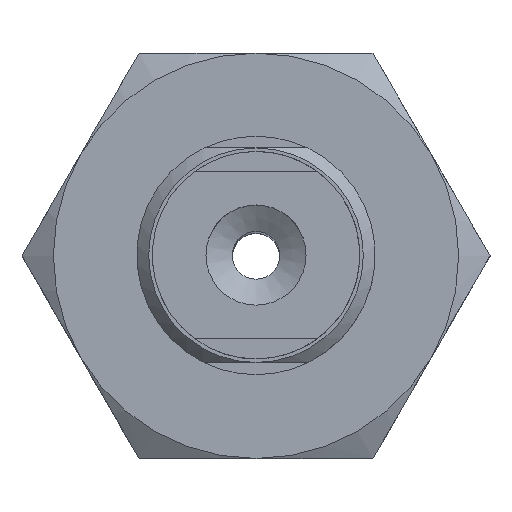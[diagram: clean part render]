
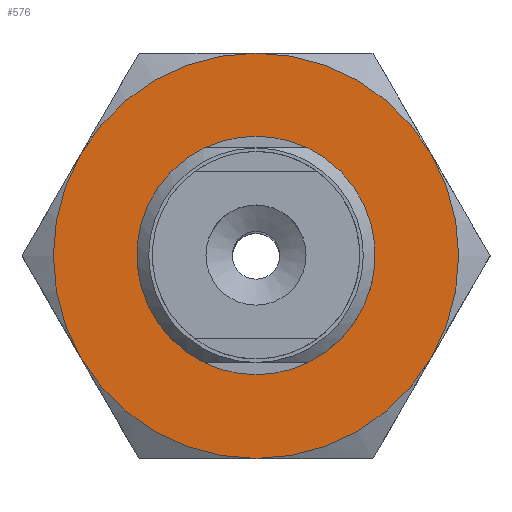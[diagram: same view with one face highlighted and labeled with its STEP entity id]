
A CAD part, top view. The second image highlights one B-rep face of the part: STEP entity #576.
In plain terms, the highlighted planar face has unit normal (0, 0, 1).
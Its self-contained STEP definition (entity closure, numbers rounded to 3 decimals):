
#576=ADVANCED_FACE('',(#836,#837),#838,.T.);
#836=FACE_BOUND('',#1242,.T.);
#837=FACE_OUTER_BOUND('',#1243,.T.);
#838=PLANE('',#1244);
#1242=EDGE_LOOP('',(#1942));
#1243=EDGE_LOOP('',(#1943,#1944,#1945,#1946,#1947,#1948));
#1244=AXIS2_PLACEMENT_3D('',#1949,#1950,#1951);
#1942=ORIENTED_EDGE('',*,*,#2606,.F.);
#1943=ORIENTED_EDGE('',*,*,#2581,.F.);
#1944=ORIENTED_EDGE('',*,*,#2596,.F.);
#1945=ORIENTED_EDGE('',*,*,#2600,.F.);
#1946=ORIENTED_EDGE('',*,*,#2604,.F.);
#1947=ORIENTED_EDGE('',*,*,#2583,.F.);
#1948=ORIENTED_EDGE('',*,*,#2576,.F.);
#1949=CARTESIAN_POINT('',(-9.815,-8.5,4.0));
#1950=DIRECTION('',(0.0,0.0,1.0));
#1951=DIRECTION('',(1.0,0.0,0.0));
#2576=EDGE_CURVE('',#2898,#2885,#2900,.T.);
#2581=EDGE_CURVE('',#2907,#2898,#2910,.T.);
#2583=EDGE_CURVE('',#2885,#2895,#2912,.T.);
#2596=EDGE_CURVE('',#2928,#2907,#2933,.T.);
#2600=EDGE_CURVE('',#2919,#2928,#2937,.T.);
#2604=EDGE_CURVE('',#2895,#2919,#2942,.T.);
#2606=EDGE_CURVE('',#2944,#2944,#2945,.T.);
#2885=VERTEX_POINT('',#3465);
#2895=VERTEX_POINT('',#3492);
#2898=VERTEX_POINT('',#3503);
#2900=CIRCLE('',#3509,8.5);
#2907=VERTEX_POINT('',#3524);
#2910=CIRCLE('',#3531,8.5);
#2912=CIRCLE('',#3537,8.5);
#2919=VERTEX_POINT('',#3553);
#2928=VERTEX_POINT('',#3579);
#2933=CIRCLE('',#3596,8.5);
#2937=CIRCLE('',#3605,8.5);
#2942=CIRCLE('',#3610,8.5);
#2944=VERTEX_POINT('',#3616);
#2945=CIRCLE('',#3617,4.5);
#3465=CARTESIAN_POINT('',(-7.361,4.25,4.0));
#3492=CARTESIAN_POINT('',(0.,8.5,4.0));
#3503=CARTESIAN_POINT('',(-7.361,-4.25,4.0));
#3509=AXIS2_PLACEMENT_3D('',#4043,#4044,#4045);
#3524=CARTESIAN_POINT('',(0.,-8.5,4.0));
#3531=AXIS2_PLACEMENT_3D('',#4049,#4050,#4051);
#3537=AXIS2_PLACEMENT_3D('',#4052,#4053,#4054);
#3553=CARTESIAN_POINT('',(7.361,4.25,4.0));
#3579=CARTESIAN_POINT('',(7.361,-4.25,4.0));
#3596=AXIS2_PLACEMENT_3D('',#4060,#4061,#4062);
#3605=AXIS2_PLACEMENT_3D('',#4067,#4068,#4069);
#3610=AXIS2_PLACEMENT_3D('',#4079,#4080,#4081);
#3616=CARTESIAN_POINT('',(0.0,-4.5,4.0));
#3617=AXIS2_PLACEMENT_3D('',#4082,#4083,#4084);
#4043=CARTESIAN_POINT('',(0.,0.,4.0));
#4044=DIRECTION('',(0.,0.,-1.0));
#4045=DIRECTION('',(0.866,0.5,0.));
#4049=CARTESIAN_POINT('',(0.,0.,4.0));
#4050=DIRECTION('',(0.,0.,-1.0));
#4051=DIRECTION('',(0.866,0.5,0.));
#4052=CARTESIAN_POINT('',(0.,0.,4.0));
#4053=DIRECTION('',(0.,0.,-1.0));
#4054=DIRECTION('',(0.866,0.5,0.));
#4060=CARTESIAN_POINT('',(0.,0.,4.0));
#4061=DIRECTION('',(0.,0.,-1.0));
#4062=DIRECTION('',(0.866,0.5,0.));
#4067=CARTESIAN_POINT('',(0.,0.,4.0));
#4068=DIRECTION('',(0.,0.,-1.0));
#4069=DIRECTION('',(0.866,0.5,0.));
#4079=CARTESIAN_POINT('',(0.,0.,4.0));
#4080=DIRECTION('',(0.,0.,-1.0));
#4081=DIRECTION('',(0.866,0.5,0.));
#4082=CARTESIAN_POINT('',(0.0,0.0,4.0));
#4083=DIRECTION('',(0.0,0.,1.0));
#4084=DIRECTION('',(0.0,-1.0,0.));
